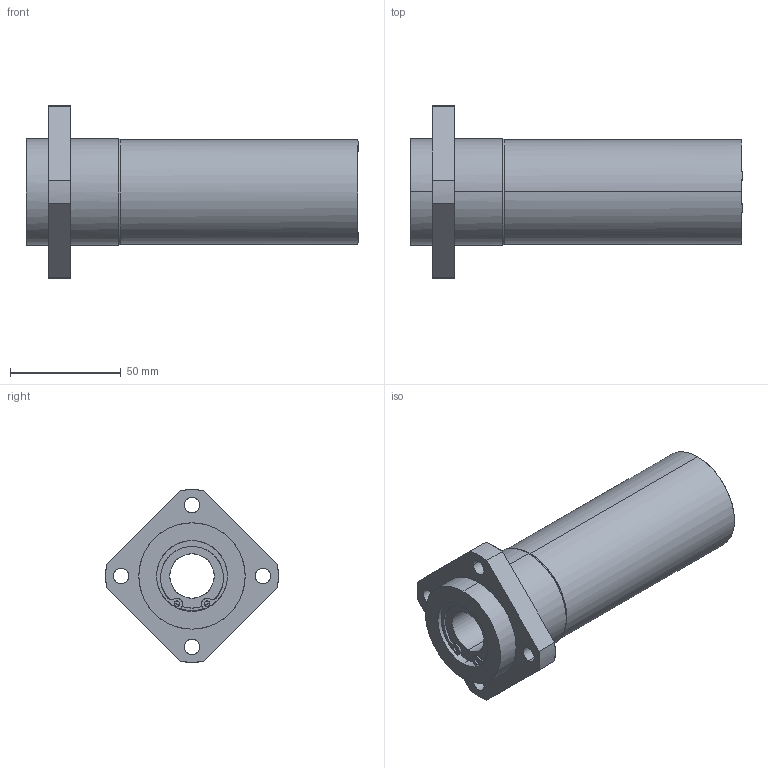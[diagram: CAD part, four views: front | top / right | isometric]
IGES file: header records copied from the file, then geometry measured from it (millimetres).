
Global section: file name: No Iges File Name specified; native system: AutoDesk Inventor R11.0; preprocessor: AutoDesk Inventor Iges Exporter R11.0; author: No Author specified; organization: No Organization specified; date: 20170922.135931; units: millimetre
Bounding box: 150 x 77.99 x 78 mm (x, y, z)
Surface area: 44609.3 mm2 (no closed solid volume)
Topology: 0 solids, 0 shells, 133 faces, 956 edges, 956 vertices
Faces by surface type: bspline 133
